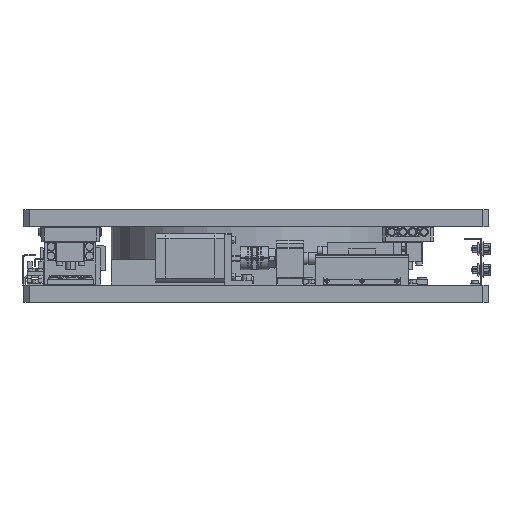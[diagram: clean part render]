
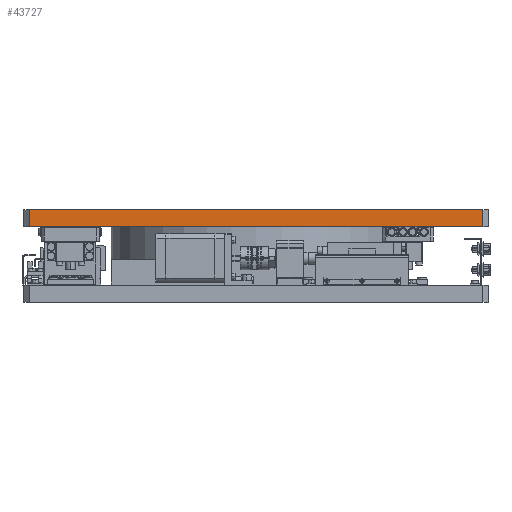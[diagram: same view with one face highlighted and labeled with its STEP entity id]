
A CAD part, left-side view. The second image highlights one B-rep face of the part: STEP entity #43727.
In plain terms, the highlighted planar face has unit normal (-1, 0, 0).
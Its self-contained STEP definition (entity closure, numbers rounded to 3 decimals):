
#1078 = CARTESIAN_POINT ( 'NONE',  ( 200., -195., 0. ) ) ;
#1465 = EDGE_CURVE ( 'NONE', #30012, #49331, #14634, .T. ) ;
#3277 = CARTESIAN_POINT ( 'NONE',  ( 200., 195., -15. ) ) ;
#5576 = DIRECTION ( 'NONE',  ( 0., -1., 0. ) ) ;
#5888 = EDGE_CURVE ( 'NONE', #74376, #49331, #122011, .T. ) ;
#14621 = AXIS2_PLACEMENT_3D ( 'NONE', #114795, #114374, #5576 ) ;
#14632 = CARTESIAN_POINT ( 'NONE',  ( 200., 195., 0. ) ) ;
#14634 = LINE ( 'NONE', #114476, #90971 ) ;
#20308 = VERTEX_POINT ( 'NONE', #1078 ) ;
#28821 = DIRECTION ( 'NONE',  ( 0., 0., -1. ) ) ;
#30012 = VERTEX_POINT ( 'NONE', #114413 ) ;
#32343 = VECTOR ( 'NONE', #28821, 1000. ) ;
#32959 = ORIENTED_EDGE ( 'NONE', *, *, #5888, .T. ) ;
#33307 = FACE_OUTER_BOUND ( 'NONE', #41726, .T. ) ;
#35185 = DIRECTION ( 'NONE',  ( 0., 1., 0. ) ) ;
#39368 = CARTESIAN_POINT ( 'NONE',  ( 200., 200., 0. ) ) ;
#41726 = EDGE_LOOP ( 'NONE', ( #32959, #100344, #65833, #51545 ) ) ;
#43106 = CARTESIAN_POINT ( 'NONE',  ( 200., 195., 0. ) ) ;
#43727 = ADVANCED_FACE ( 'NONE', ( #33307 ), #124780, .F. ) ;
#49331 = VERTEX_POINT ( 'NONE', #3277 ) ;
#49749 = DIRECTION ( 'NONE',  ( 0., -1., 0. ) ) ;
#51545 = ORIENTED_EDGE ( 'NONE', *, *, #88995, .F. ) ;
#58850 = EDGE_CURVE ( 'NONE', #20308, #30012, #61951, .T. ) ;
#61951 = LINE ( 'NONE', #88515, #32343 ) ;
#65833 = ORIENTED_EDGE ( 'NONE', *, *, #58850, .F. ) ;
#74376 = VERTEX_POINT ( 'NONE', #14632 ) ;
#83273 = DIRECTION ( 'NONE',  ( 0., 0., -1. ) ) ;
#88515 = CARTESIAN_POINT ( 'NONE',  ( 200., -195., 0. ) ) ;
#88995 = EDGE_CURVE ( 'NONE', #74376, #20308, #116851, .T. ) ;
#90405 = VECTOR ( 'NONE', #49749, 1000. ) ;
#90971 = VECTOR ( 'NONE', #35185, 1000. ) ;
#92458 = VECTOR ( 'NONE', #83273, 1000. ) ;
#100344 = ORIENTED_EDGE ( 'NONE', *, *, #1465, .F. ) ;
#114374 = DIRECTION ( 'NONE',  ( 1., 0., 0. ) ) ;
#114413 = CARTESIAN_POINT ( 'NONE',  ( 200., -195., -15. ) ) ;
#114476 = CARTESIAN_POINT ( 'NONE',  ( 200., -200., -15. ) ) ;
#114795 = CARTESIAN_POINT ( 'NONE',  ( 200., 200., 0. ) ) ;
#116851 = LINE ( 'NONE', #39368, #90405 ) ;
#122011 = LINE ( 'NONE', #43106, #92458 ) ;
#124780 = PLANE ( 'NONE',  #14621 ) ;
